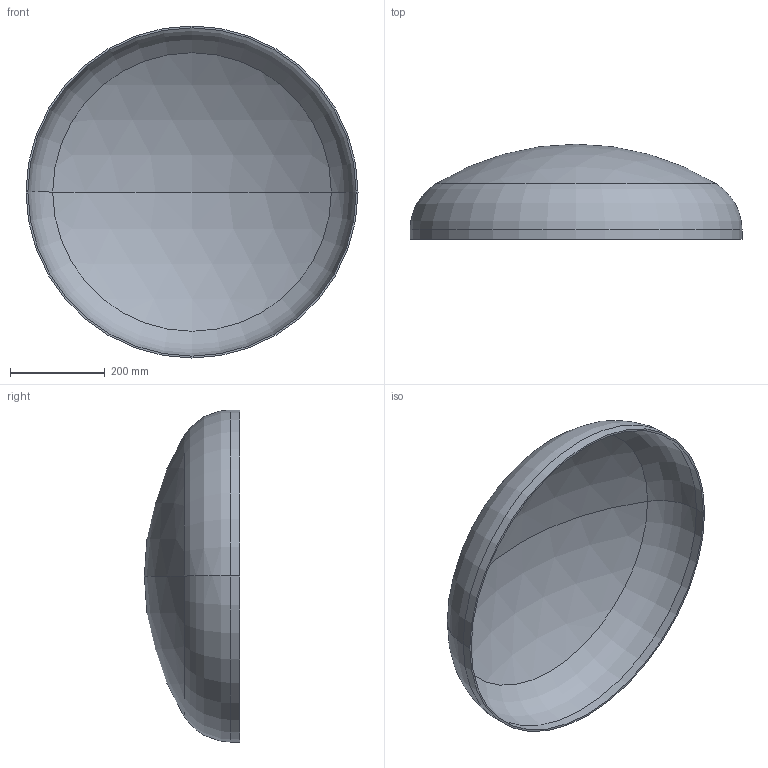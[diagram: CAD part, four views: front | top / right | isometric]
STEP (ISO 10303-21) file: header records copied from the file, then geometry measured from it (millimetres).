
FILE_DESCRIPTION (( 'STEP AP203' ), '1' );
FILE_NAME ('DIN 28013 Korbbogenform_-_Boden DIN 28013 - 700 x 20 - I - s=4.step', '2016-07-01T08:03:24', ( '' ), ( '' ), 'SwSTEP 2.0', 'SolidWorks 2013', '' );
FILE_SCHEMA (( 'CONFIG_CONTROL_DESIGN' ));
Length unit declared in the file: millimetre
Products named in the file (1): DIN 28013 Korbbogenform_-_Boden DIN 28013 - 700 x 20 - I - s=4
Bounding box: 700 x 200.85 x 700 mm (x, y, z)
Volume: 2299376.7 mm3; surface area: 1158467.6 mm2
Topology: 1 solids, 1 shells, 13 faces, 24 edges, 14 vertices
Faces by surface type: torus 4, cylinder 4, sphere 4, plane 1
Entity records: 407 total; most frequent: DIRECTION 72, CARTESIAN_POINT 52, ORIENTED_EDGE 48, AXIS2_PLACEMENT_3D 34, EDGE_CURVE 24, CIRCLE 20, EDGE_LOOP 14, VERTEX_POINT 14
